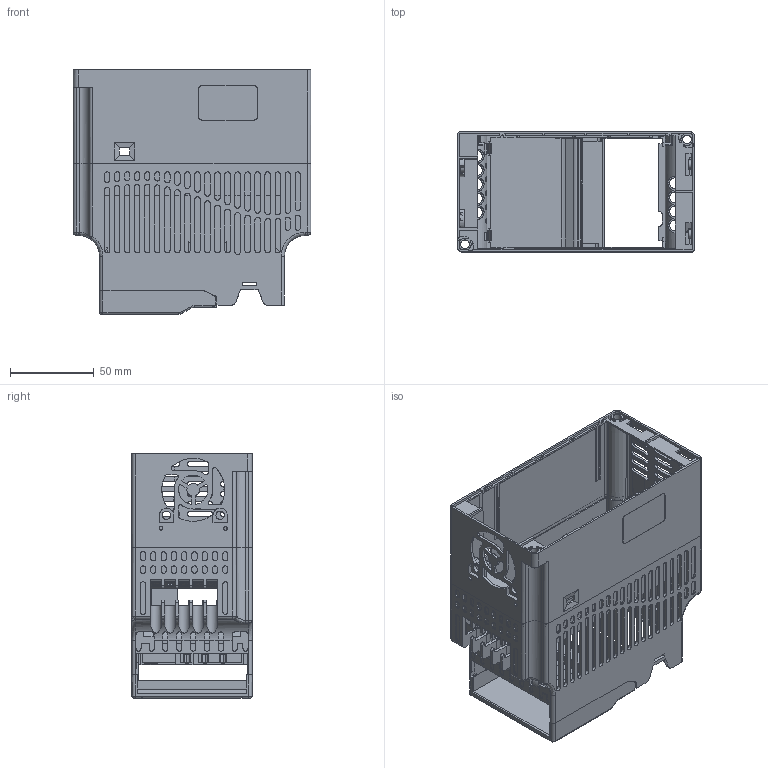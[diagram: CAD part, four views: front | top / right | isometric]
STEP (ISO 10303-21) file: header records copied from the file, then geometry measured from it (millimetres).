
FILE_DESCRIPTION (( 'STEP AP203' ), '1' );
FILE_NAME ('Z2000-2_2kw (S11).STEP', '2019-05-24T13:35:42', ( '' ), ( '' ), 'SwSTEP 2.0', 'SolidWorks 2012', '' );
FILE_SCHEMA (( 'CONFIG_CONTROL_DESIGN' ));
Products named in the file (1): Z2000-2_2kw (S11)
Bounding box: 142 x 72 x 146.1 mm (x, y, z)
Surface area: 141072.7 mm2 (no closed solid volume)
Topology: 0 solids, 8 shells, 2649 faces, 7690 edges, 5112 vertices
Faces by surface type: plane 1647, cylinder 805, bspline 150, cone 45, torus 2
Entity records: 119115 total; most frequent: CARTESIAN_POINT 55165, ORIENTED_EDGE 15227, DIRECTION 9936, EDGE_CURVE 7678, VERTEX_POINT 5112, LINE 4572, VECTOR 4572, EDGE_LOOP 2908
